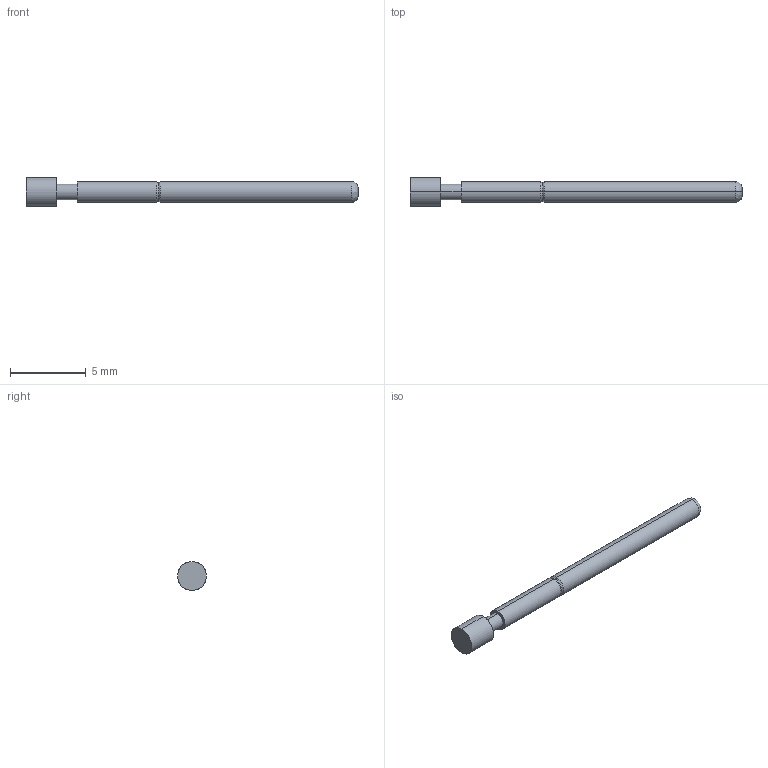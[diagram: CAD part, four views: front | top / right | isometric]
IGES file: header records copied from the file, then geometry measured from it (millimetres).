
Start section: SolidWorks IGES file using analytic representation for surfaces
Global section: file name: Z:\probe solid model mockups\Solidworks models\IGES Files\EPA-2\EPA-2F RECD.IGS; native system: SolidWorks 2006 by SolidWorks Corporation; preprocessor: SolidWorks 2006 by SolidWorks Corporation; author: tsakatani; date: 071220.161833; units: inch
Bounding box: 21.92 x 1.91 x 1.91 mm (x, y, z)
Surface area: 102.6 mm2 (no closed solid volume)
Topology: 0 solids, 0 shells, 18 faces, 184 edges, 184 vertices
Faces by surface type: bspline 10, revolution 8
